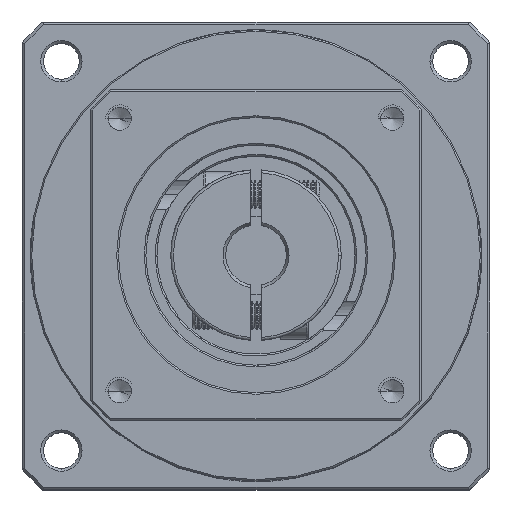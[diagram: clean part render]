
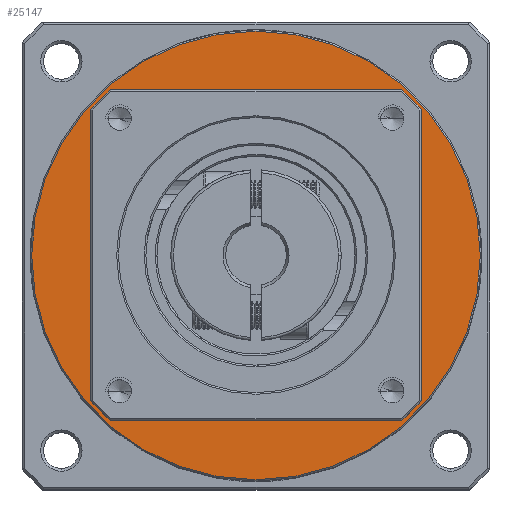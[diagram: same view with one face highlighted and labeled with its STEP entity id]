
A CAD part, top view. The second image highlights one B-rep face of the part: STEP entity #25147.
In plain terms, the highlighted planar face has unit normal (0, 0, 1).
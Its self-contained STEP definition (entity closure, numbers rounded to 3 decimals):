
#995 = ORIENTED_EDGE ( 'NONE', *, *, #99625, .F. ) ;
#1175 = AXIS2_PLACEMENT_3D ( 'NONE', #52887, #117422, #62133 ) ;
#5937 = DIRECTION ( 'NONE',  ( 0., 0., 1. ) ) ;
#9139 = DIRECTION ( 'NONE',  ( 0., 1., 0. ) ) ;
#9412 = CARTESIAN_POINT ( 'NONE',  ( -93.871, 20.584, -29.394 ) ) ;
#11610 = VERTEX_POINT ( 'NONE', #60792 ) ;
#13332 = FACE_BOUND ( 'NONE', #44718, .T. ) ;
#13957 = DIRECTION ( 'NONE',  ( 0., 0., -1. ) ) ;
#22124 = CIRCLE ( 'NONE', #106662, 40.75 ) ;
#23694 = EDGE_CURVE ( 'NONE', #37822, #53065, #61587, .T. ) ;
#24437 = VERTEX_POINT ( 'NONE', #119656 ) ;
#25147 = ADVANCED_FACE ( 'NONE', ( #37892, #13332 ), #70061, .T. ) ;
#25562 = CIRCLE ( 'NONE', #25839, 30. ) ;
#25839 = AXIS2_PLACEMENT_3D ( 'NONE', #101240, #45999, #110526 ) ;
#37822 = VERTEX_POINT ( 'NONE', #9412 ) ;
#37892 = FACE_OUTER_BOUND ( 'NONE', #93770, .T. ) ;
#38155 = ORIENTED_EDGE ( 'NONE', *, *, #118587, .F. ) ;
#43710 = CIRCLE ( 'NONE', #61788, 40.75 ) ;
#44718 = EDGE_LOOP ( 'NONE', ( #58231, #97108 ) ) ;
#45999 = DIRECTION ( 'NONE',  ( 0., 0., -1. ) ) ;
#52887 = CARTESIAN_POINT ( 'NONE',  ( -63.871, 20.584, -29.394 ) ) ;
#53065 = VERTEX_POINT ( 'NONE', #61212 ) ;
#58231 = ORIENTED_EDGE ( 'NONE', *, *, #23694, .T. ) ;
#60792 = CARTESIAN_POINT ( 'NONE',  ( -63.871, -20.166, -29.394 ) ) ;
#61206 = CARTESIAN_POINT ( 'NONE',  ( -63.871, 20.584, -29.394 ) ) ;
#61212 = CARTESIAN_POINT ( 'NONE',  ( -33.871, 20.584, -29.394 ) ) ;
#61587 = CIRCLE ( 'NONE', #1175, 30. ) ;
#61788 = AXIS2_PLACEMENT_3D ( 'NONE', #119691, #64383, #9139 ) ;
#62133 = DIRECTION ( 'NONE',  ( -1., 0., 0. ) ) ;
#62645 = EDGE_CURVE ( 'NONE', #53065, #37822, #25562, .T. ) ;
#64383 = DIRECTION ( 'NONE',  ( 0., 0., -1. ) ) ;
#69212 = CARTESIAN_POINT ( 'NONE',  ( -63.871, 20.584, -29.394 ) ) ;
#70061 = PLANE ( 'NONE',  #72667 ) ;
#70463 = DIRECTION ( 'NONE',  ( 1., 0., 0. ) ) ;
#72667 = AXIS2_PLACEMENT_3D ( 'NONE', #61206, #5937, #70463 ) ;
#78485 = DIRECTION ( 'NONE',  ( 0., 1., 0. ) ) ;
#93770 = EDGE_LOOP ( 'NONE', ( #995, #38155 ) ) ;
#97108 = ORIENTED_EDGE ( 'NONE', *, *, #62645, .T. ) ;
#99625 = EDGE_CURVE ( 'NONE', #24437, #11610, #22124, .T. ) ;
#101240 = CARTESIAN_POINT ( 'NONE',  ( -63.871, 20.584, -29.394 ) ) ;
#106662 = AXIS2_PLACEMENT_3D ( 'NONE', #69212, #13957, #78485 ) ;
#110526 = DIRECTION ( 'NONE',  ( -1., 0., 0. ) ) ;
#117422 = DIRECTION ( 'NONE',  ( 0., 0., -1. ) ) ;
#118587 = EDGE_CURVE ( 'NONE', #11610, #24437, #43710, .T. ) ;
#119656 = CARTESIAN_POINT ( 'NONE',  ( -63.871, 61.334, -29.394 ) ) ;
#119691 = CARTESIAN_POINT ( 'NONE',  ( -63.871, 20.584, -29.394 ) ) ;
